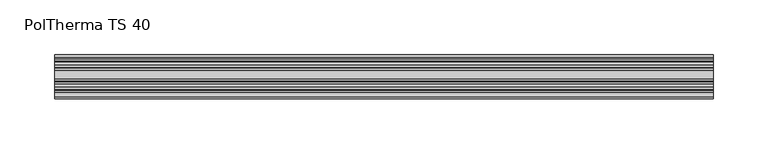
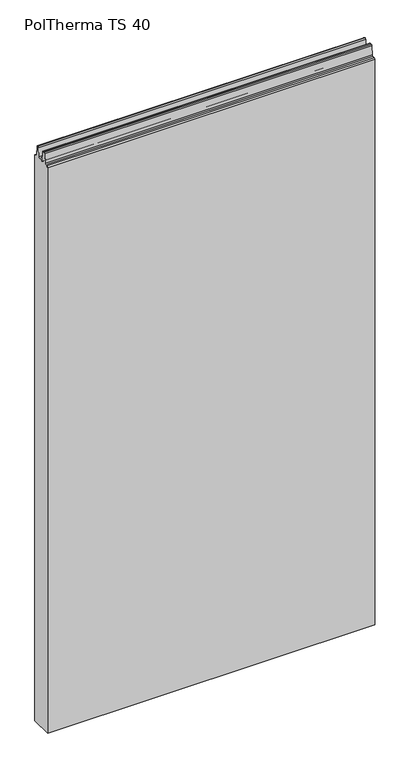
"""IFC4 building model written with IfcOpenShell, lengths in millimetres: plate geometry, Europanels_Poltherma TS_Hz : PolTherma TS 40."""

from ifc_helpers import new_model, si_unit, point, frame, frame_2d, origin, place, context, project, spatial, polyline, circle_curve, trimmed, segment, composite_curve, outline, extrude, source, transform, mapped, element, save


def poltherma_ts_40_73381110(model_context):
    return source(origin(), model_context, "Body", "SweptSolid", [
        extrude(outline(composite_curve([segment(trimmed(circle_curve(frame_2d((-9.1874198, 1117.5011047)), 2.0), [point((-11.1836192, 1117.624345))], [point((-9.1874198, 1119.5011047))], False, "CARTESIAN"), True, "CONTINUOUS"), segment(polyline([(-9.1874198, 1119.5011047), (-6.4480373, 1119.5011047)]), True, "CONTINUOUS"), segment(trimmed(circle_curve(frame_2d((-6.4480373, 1117.5011047)), 2.0), [point((-6.4480373, 1119.5011047))], [point((-4.4498501, 1117.5862394))], False, "CARTESIAN"), True, "CONTINUOUS"), segment(polyline([(-4.4498501, 1117.5862394), (-3.7101357, 1100.2244834)]), True, "CONTINUOUS"), segment(trimmed(circle_curve(frame_2d((-1.9117672, 1100.3011047)), 1.8), [point((-3.7101357, 1100.2244834))], [point((-1.9117672, 1098.5011047))], True, "CARTESIAN"), True, "CONTINUOUS"), segment(polyline([(-1.9117672, 1098.5011047), (6.113894, 1098.5011047)]), True, "CONTINUOUS"), segment(trimmed(circle_curve(frame_2d((6.113894, 1100.5011047)), 2.0), [point((6.113894, 1098.5011047))], [point((8.1120505, 1100.4152514))], True, "CARTESIAN"), True, "CONTINUOUS"), segment(polyline([(8.1120505, 1100.4152514), (8.8693289, 1117.5889644)]), True, "CONTINUOUS"), segment(trimmed(circle_curve(frame_2d((10.8984404, 1117.5046542)), 2.0308623), [point((8.8693289, 1117.5889644))], [point((11.1407625, 1119.5210078))], False, "CARTESIAN"), True, "CONTINUOUS"), segment(trimmed(circle_curve(frame_2d((11.1407625, 1117.4973942)), 2.0236135), [point((11.1407625, 1119.5210078))], [point((13.1604251, 1117.6237846))], False, "CARTESIAN"), True, "CONTINUOUS"), segment(polyline([(13.1604251, 1117.6237846), (14.2596673, 1100.3765791)]), True, "CONTINUOUS"), segment(trimmed(circle_curve(frame_2d((16.2557869, 1100.5011047)), 2.0), [point((14.2596673, 1100.3765791))], [point((16.2557869, 1098.5011047))], True, "CARTESIAN"), True, "CONTINUOUS"), segment(polyline([(16.2557869, 1098.5011047), (18.0, 1098.5011047)]), True, "CONTINUOUS"), segment(trimmed(circle_curve(frame_2d((18.0, 1096.5011047)), 2.0), [point((18.0, 1098.5011047))], [point((20.0, 1096.5011047))], False, "CARTESIAN"), True, "CONTINUOUS"), segment(polyline([(20.0, 1096.5011047), (20.0, 0.0), (-20.0, 0.0), (-20.0, 1096.5011047)]), True, "CONTINUOUS"), segment(trimmed(circle_curve(frame_2d((-18.0, 1096.5011047)), 2.0), [point((-20.0, 1096.5011047))], [point((-18.0, 1098.5011047))], False, "CARTESIAN"), True, "CONTINUOUS"), segment(polyline([(-18.0, 1098.5011047), (-14.244573, 1098.5011047)]), True, "CONTINUOUS"), segment(trimmed(circle_curve(frame_2d((-14.244573, 1100.5011047)), 2.0), [point((-14.244573, 1098.5011047))], [point((-12.2483736, 1100.3778643))], True, "CARTESIAN"), True, "CONTINUOUS"), segment(polyline([(-12.2483736, 1100.3778643), (-11.1836192, 1117.624345)]), True, "CONTINUOUS")], self_intersect=False)), frame((-300.0, 0.0, 0.0), z_axis=(1.0, 0.0, 0.0), x_axis=(0.0, 1.0, 0.0)), (0.0, 0.0, 1.0), 600.0),
    ])


if __name__ == "__main__":
    model = new_model("IFC4")
    model_context = context("Model", 3, world=origin())
    ifc_project = project(units=[si_unit("LENGTHUNIT", "METRE", prefix="MILLI")], contexts=[model_context])
    site = spatial("IfcSite", under=ifc_project)
    building = spatial("IfcBuilding", under=site)
    placement = place(None, origin())
    poltherma_ts_40_shape = poltherma_ts_40_73381110(model_context)
    element("IfcPlate", 1, ObjectType="Europanels_Poltherma TS_Hz : PolTherma TS 40", at=placement, inside=building, context=model_context, shape_type="MappedRepresentation", body=[
        mapped(poltherma_ts_40_shape, transform((0.0, 0.0, 0.0), x_axis=(1.0, 0.0, 0.0), y_axis=(0.0, 1.0, 0.0), z_axis=(0.0, 0.0, 1.0))),
    ])
    save(model, "model.ifc")
